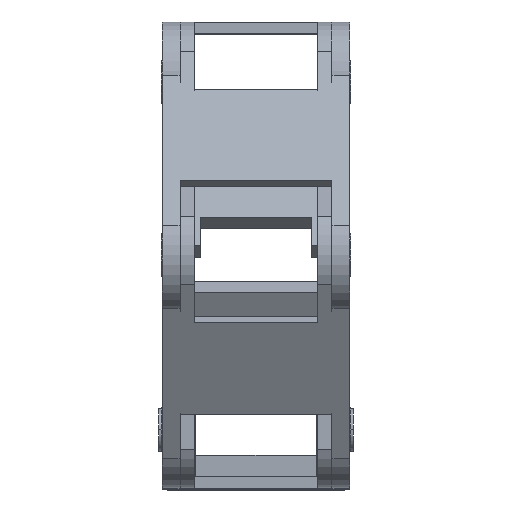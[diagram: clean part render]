
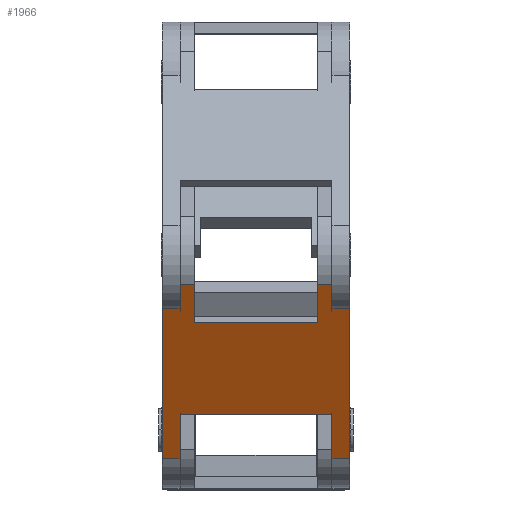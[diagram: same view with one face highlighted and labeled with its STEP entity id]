
A CAD part, top view. The second image highlights one B-rep face of the part: STEP entity #1966.
In plain terms, the highlighted planar face has unit normal (0, -0.5, 0.866) as drawn and (0, -1, 0) by its records, which use the part's own axes.
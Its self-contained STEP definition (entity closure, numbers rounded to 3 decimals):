
#620=DIRECTION('',(1.,0.,0.));
#621=VECTOR('',#620,1.498);
#622=CARTESIAN_POINT('',(45.696,82.562,12.405));
#623=LINE('',#622,#621);
#749=DIRECTION('',(-1.,0.,0.));
#750=VECTOR('',#749,10.385);
#751=CARTESIAN_POINT('',(44.496,82.562,25.605));
#752=LINE('',#751,#750);
#770=DIRECTION('',(0.,0.,1.));
#771=VECTOR('',#770,3.7);
#772=CARTESIAN_POINT('',(34.111,82.562,25.605));
#773=LINE('',#772,#771);
#872=DIRECTION('',(1.,0.,0.));
#873=VECTOR('',#872,1.498);
#874=CARTESIAN_POINT('',(31.413,82.562,12.405));
#875=LINE('',#874,#873);
#994=DIRECTION('',(-1.,0.,0.));
#995=VECTOR('',#994,1.498);
#996=CARTESIAN_POINT('',(32.911,82.562,27.014));
#997=LINE('',#996,#995);
#1001=DIRECTION('',(0.,0.,1.));
#1002=VECTOR('',#1001,14.609);
#1003=CARTESIAN_POINT('',(31.413,82.562,12.405));
#1004=LINE('',#1003,#1002);
#1008=DIRECTION('',(0.,0.,1.));
#1009=VECTOR('',#1008,2.291);
#1010=CARTESIAN_POINT('',(32.911,82.562,27.014));
#1011=LINE('',#1010,#1009);
#1015=DIRECTION('',(0.,0.,1.));
#1016=VECTOR('',#1015,3.7);
#1017=CARTESIAN_POINT('',(44.496,82.562,25.605));
#1018=LINE('',#1017,#1016);
#1022=DIRECTION('',(0.,0.,-1.));
#1023=VECTOR('',#1022,2.291);
#1024=CARTESIAN_POINT('',(45.696,82.562,29.305));
#1025=LINE('',#1024,#1023);
#1029=DIRECTION('',(0.,0.,-1.));
#1030=VECTOR('',#1029,14.609);
#1031=CARTESIAN_POINT('',(47.194,82.562,27.014));
#1032=LINE('',#1031,#1030);
#1036=DIRECTION('',(0.,0.,1.));
#1037=VECTOR('',#1036,4.307);
#1038=CARTESIAN_POINT('',(45.696,82.562,12.405));
#1039=LINE('',#1038,#1037);
#1043=DIRECTION('',(-1.,0.,0.));
#1044=VECTOR('',#1043,12.785);
#1045=CARTESIAN_POINT('',(45.696,82.562,16.712));
#1046=LINE('',#1045,#1044);
#1050=DIRECTION('',(0.,0.,-1.));
#1051=VECTOR('',#1050,4.307);
#1052=CARTESIAN_POINT('',(32.911,82.562,16.712));
#1053=LINE('',#1052,#1051);
#1064=DIRECTION('',(-1.,0.,0.));
#1065=VECTOR('',#1064,1.2);
#1066=CARTESIAN_POINT('',(34.111,82.562,29.305));
#1067=LINE('',#1066,#1065);
#1113=DIRECTION('',(-1.,0.,0.));
#1114=VECTOR('',#1113,1.2);
#1115=CARTESIAN_POINT('',(45.696,82.562,29.305));
#1116=LINE('',#1115,#1114);
#1127=DIRECTION('',(-1.,0.,0.));
#1128=VECTOR('',#1127,1.498);
#1129=CARTESIAN_POINT('',(47.194,82.562,27.014));
#1130=LINE('',#1129,#1128);
#1334=CARTESIAN_POINT('',(31.413,82.562,12.405));
#1335=CARTESIAN_POINT('',(31.413,82.562,27.014));
#1336=VERTEX_POINT('',#1334);
#1337=VERTEX_POINT('',#1335);
#1338=CARTESIAN_POINT('',(32.911,82.562,27.014));
#1339=VERTEX_POINT('',#1338);
#1340=CARTESIAN_POINT('',(32.911,82.562,29.305));
#1341=VERTEX_POINT('',#1340);
#1342=CARTESIAN_POINT('',(34.111,82.562,29.305));
#1343=VERTEX_POINT('',#1342);
#1344=CARTESIAN_POINT('',(34.111,82.562,25.605));
#1345=VERTEX_POINT('',#1344);
#1346=CARTESIAN_POINT('',(32.911,82.562,16.712));
#1347=CARTESIAN_POINT('',(32.911,82.562,12.405));
#1348=VERTEX_POINT('',#1346);
#1349=VERTEX_POINT('',#1347);
#1382=CARTESIAN_POINT('',(45.696,82.562,29.305));
#1383=CARTESIAN_POINT('',(45.696,82.562,27.014));
#1384=VERTEX_POINT('',#1382);
#1385=VERTEX_POINT('',#1383);
#1396=CARTESIAN_POINT('',(44.496,82.562,25.605));
#1397=CARTESIAN_POINT('',(44.496,82.562,29.305));
#1398=VERTEX_POINT('',#1396);
#1399=VERTEX_POINT('',#1397);
#1424=CARTESIAN_POINT('',(47.194,82.562,27.014));
#1425=CARTESIAN_POINT('',(47.194,82.562,12.405));
#1426=VERTEX_POINT('',#1424);
#1427=VERTEX_POINT('',#1425);
#1432=CARTESIAN_POINT('',(45.696,82.562,16.712));
#1433=VERTEX_POINT('',#1432);
#1434=CARTESIAN_POINT('',(45.696,82.562,12.405));
#1435=VERTEX_POINT('',#1434);
#1939=CARTESIAN_POINT('',(31.811,82.562,7.405));
#1940=DIRECTION('',(0.,-1.,0.));
#1941=DIRECTION('',(0.,0.,1.));
#1942=AXIS2_PLACEMENT_3D('',#1939,#1940,#1941);
#1943=PLANE('',#1942);
#1944=ORIENTED_EDGE('',*,*,#1872,.T.);
#1945=ORIENTED_EDGE('',*,*,#1933,.F.);
#1946=ORIENTED_EDGE('',*,*,#1915,.T.);
#1948=ORIENTED_EDGE('',*,*,#1947,.F.);
#1949=ORIENTED_EDGE('',*,*,#1794,.F.);
#1950=ORIENTED_EDGE('',*,*,#1779,.F.);
#1951=ORIENTED_EDGE('',*,*,#1523,.T.);
#1953=ORIENTED_EDGE('',*,*,#1952,.F.);
#1954=ORIENTED_EDGE('',*,*,#1463,.T.);
#1956=ORIENTED_EDGE('',*,*,#1955,.F.);
#1957=ORIENTED_EDGE('',*,*,#1657,.T.);
#1958=ORIENTED_EDGE('',*,*,#1677,.F.);
#1959=ORIENTED_EDGE('',*,*,#1700,.T.);
#1961=ORIENTED_EDGE('',*,*,#1960,.T.);
#1962=ORIENTED_EDGE('',*,*,#1830,.T.);
#1963=ORIENTED_EDGE('',*,*,#1858,.F.);
#1964=EDGE_LOOP('',(#1944,#1945,#1946,#1948,#1949,#1950,#1951,#1953,#1954,#1956,
#1957,#1958,#1959,#1961,#1962,#1963));
#1965=FACE_OUTER_BOUND('',#1964,.F.);
#1966=ADVANCED_FACE('',(#1965),#1943,.T.);
#1463=EDGE_CURVE('',#1384,#1385,#1025,.T.);
#1523=EDGE_CURVE('',#1398,#1399,#1018,.T.);
#1657=EDGE_CURVE('',#1426,#1427,#1032,.T.);
#1677=EDGE_CURVE('',#1435,#1427,#623,.T.);
#1700=EDGE_CURVE('',#1435,#1433,#1039,.T.);
#1779=EDGE_CURVE('',#1398,#1345,#752,.T.);
#1794=EDGE_CURVE('',#1345,#1343,#773,.T.);
#1830=EDGE_CURVE('',#1348,#1349,#1053,.T.);
#1858=EDGE_CURVE('',#1336,#1349,#875,.T.);
#1872=EDGE_CURVE('',#1336,#1337,#1004,.T.);
#1915=EDGE_CURVE('',#1339,#1341,#1011,.T.);
#1933=EDGE_CURVE('',#1339,#1337,#997,.T.);
#1947=EDGE_CURVE('',#1343,#1341,#1067,.T.);
#1952=EDGE_CURVE('',#1384,#1399,#1116,.T.);
#1955=EDGE_CURVE('',#1426,#1385,#1130,.T.);
#1960=EDGE_CURVE('',#1433,#1348,#1046,.T.);
